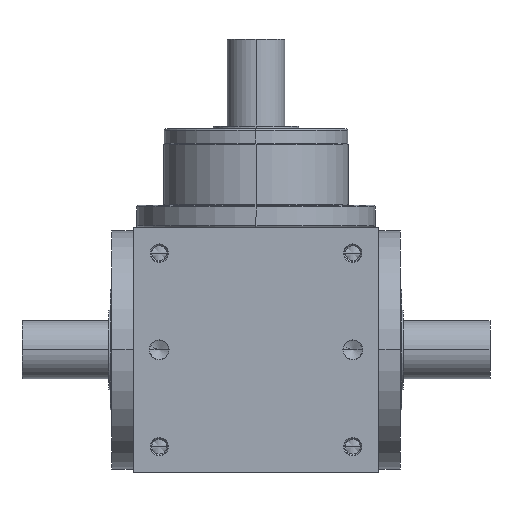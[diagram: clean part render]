
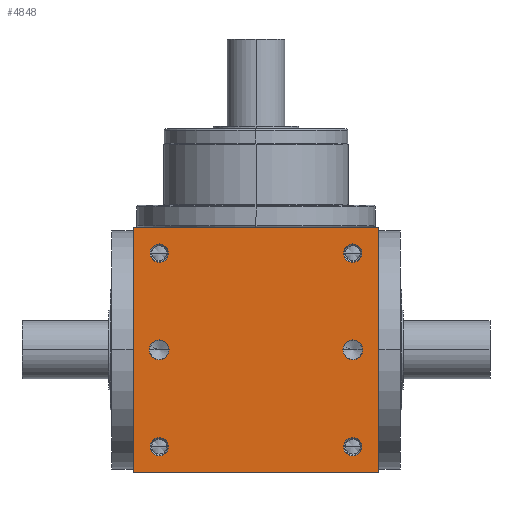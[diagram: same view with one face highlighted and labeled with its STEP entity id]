
A CAD part, front view. The second image highlights one B-rep face of the part: STEP entity #4848.
In plain terms, the highlighted planar face has unit normal (0, -1, 0).
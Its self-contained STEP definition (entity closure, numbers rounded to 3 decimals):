
#5=DIRECTION('',(1.,0.,0.));
#6=VECTOR('',#5,170.);
#7=CARTESIAN_POINT('',(-85.,-85.,-85.));
#8=LINE('',#7,#6);
#155=DIRECTION('',(0.,0.,1.));
#156=VECTOR('',#155,170.);
#157=CARTESIAN_POINT('',(85.,-85.,-85.));
#158=LINE('',#157,#156);
#209=DIRECTION('',(0.,0.,1.));
#210=VECTOR('',#209,170.);
#211=CARTESIAN_POINT('',(-85.,-85.,-85.));
#212=LINE('',#211,#210);
#213=CARTESIAN_POINT('',(67.,-85.,67.));
#214=DIRECTION('',(0.,1.,0.));
#215=DIRECTION('',(-1.,0.,0.));
#216=AXIS2_PLACEMENT_3D('',#213,#214,#215);
#218=CARTESIAN_POINT('',(67.,-85.,67.));
#219=DIRECTION('',(0.,1.,0.));
#220=DIRECTION('',(1.,0.,0.));
#221=AXIS2_PLACEMENT_3D('',#218,#219,#220);
#223=CARTESIAN_POINT('',(-67.,-85.,67.));
#224=DIRECTION('',(0.,1.,0.));
#225=DIRECTION('',(-1.,0.,0.));
#226=AXIS2_PLACEMENT_3D('',#223,#224,#225);
#228=CARTESIAN_POINT('',(-67.,-85.,67.));
#229=DIRECTION('',(0.,1.,0.));
#230=DIRECTION('',(1.,0.,0.));
#231=AXIS2_PLACEMENT_3D('',#228,#229,#230);
#233=CARTESIAN_POINT('',(67.,-85.,-67.));
#234=DIRECTION('',(0.,1.,0.));
#235=DIRECTION('',(-1.,0.,0.));
#236=AXIS2_PLACEMENT_3D('',#233,#234,#235);
#238=CARTESIAN_POINT('',(67.,-85.,-67.));
#239=DIRECTION('',(0.,1.,0.));
#240=DIRECTION('',(1.,0.,0.));
#241=AXIS2_PLACEMENT_3D('',#238,#239,#240);
#243=CARTESIAN_POINT('',(-67.,-85.,-67.));
#244=DIRECTION('',(0.,1.,0.));
#245=DIRECTION('',(-1.,0.,0.));
#246=AXIS2_PLACEMENT_3D('',#243,#244,#245);
#248=CARTESIAN_POINT('',(-67.,-85.,-67.));
#249=DIRECTION('',(0.,1.,0.));
#250=DIRECTION('',(1.,0.,0.));
#251=AXIS2_PLACEMENT_3D('',#248,#249,#250);
#253=CARTESIAN_POINT('',(-67.,-85.,0.));
#254=DIRECTION('',(0.,1.,0.));
#255=DIRECTION('',(1.,0.,0.));
#256=AXIS2_PLACEMENT_3D('',#253,#254,#255);
#258=CARTESIAN_POINT('',(-67.,-85.,0.));
#259=DIRECTION('',(0.,1.,0.));
#260=DIRECTION('',(-1.,0.,0.));
#261=AXIS2_PLACEMENT_3D('',#258,#259,#260);
#263=CARTESIAN_POINT('',(67.,-85.,0.));
#264=DIRECTION('',(0.,1.,0.));
#265=DIRECTION('',(1.,0.,0.));
#266=AXIS2_PLACEMENT_3D('',#263,#264,#265);
#268=CARTESIAN_POINT('',(67.,-85.,0.));
#269=DIRECTION('',(0.,1.,0.));
#270=DIRECTION('',(-1.,0.,0.));
#271=AXIS2_PLACEMENT_3D('',#268,#269,#270);
#285=DIRECTION('',(1.,0.,0.));
#286=VECTOR('',#285,170.);
#287=CARTESIAN_POINT('',(-85.,-85.,85.));
#288=LINE('',#287,#286);
#3884=CARTESIAN_POINT('',(-85.,-85.,-85.));
#3886=VERTEX_POINT('',#3884);
#3887=CARTESIAN_POINT('',(85.,-85.,-85.));
#3888=VERTEX_POINT('',#3887);
#3892=CARTESIAN_POINT('',(-85.,-85.,85.));
#3894=VERTEX_POINT('',#3892);
#3895=CARTESIAN_POINT('',(85.,-85.,85.));
#3896=VERTEX_POINT('',#3895);
#4075=CARTESIAN_POINT('',(60.65,-85.,67.));
#4076=CARTESIAN_POINT('',(73.35,-85.,67.));
#4077=VERTEX_POINT('',#4075);
#4078=VERTEX_POINT('',#4076);
#4083=CARTESIAN_POINT('',(-73.35,-85.,67.));
#4084=CARTESIAN_POINT('',(-60.65,-85.,67.));
#4085=VERTEX_POINT('',#4083);
#4086=VERTEX_POINT('',#4084);
#4091=CARTESIAN_POINT('',(60.65,-85.,-67.));
#4092=CARTESIAN_POINT('',(73.35,-85.,-67.));
#4093=VERTEX_POINT('',#4091);
#4094=VERTEX_POINT('',#4092);
#4099=CARTESIAN_POINT('',(-73.35,-85.,-67.));
#4100=CARTESIAN_POINT('',(-60.65,-85.,-67.));
#4101=VERTEX_POINT('',#4099);
#4102=VERTEX_POINT('',#4100);
#4459=CARTESIAN_POINT('',(-60.15,-85.,0.));
#4460=CARTESIAN_POINT('',(-73.85,-85.,
0.));
#4461=VERTEX_POINT('',#4459);
#4462=VERTEX_POINT('',#4460);
#4467=CARTESIAN_POINT('',(73.85,-85.,0.));
#4468=CARTESIAN_POINT('',(60.15,-85.,0.));
#4469=VERTEX_POINT('',#4467);
#4470=VERTEX_POINT('',#4468);
#4800=CARTESIAN_POINT('',(-85.,-85.,-85.));
#4801=DIRECTION('',(0.,-1.,0.));
#4802=DIRECTION('',(1.,0.,0.));
#4803=AXIS2_PLACEMENT_3D('',#4800,#4801,#4802);
#4804=PLANE('',#4803);
#4805=ORIENTED_EDGE('',*,*,#4640,.F.);
#4806=ORIENTED_EDGE('',*,*,#4683,.T.);
#4808=ORIENTED_EDGE('',*,*,#4807,.T.);
#4809=ORIENTED_EDGE('',*,*,#4762,.F.);
#4810=EDGE_LOOP('',(#4805,#4806,#4808,#4809));
#4811=FACE_OUTER_BOUND('',#4810,.F.);
#4813=ORIENTED_EDGE('',*,*,#4812,.F.);
#4815=ORIENTED_EDGE('',*,*,#4814,.F.);
#4816=EDGE_LOOP('',(#4813,#4815));
#4817=FACE_BOUND('',#4816,.F.);
#4819=ORIENTED_EDGE('',*,*,#4818,.F.);
#4821=ORIENTED_EDGE('',*,*,#4820,.F.);
#4822=EDGE_LOOP('',(#4819,#4821));
#4823=FACE_BOUND('',#4822,.F.);
#4825=ORIENTED_EDGE('',*,*,#4824,.F.);
#4827=ORIENTED_EDGE('',*,*,#4826,.F.);
#4828=EDGE_LOOP('',(#4825,#4827));
#4829=FACE_BOUND('',#4828,.F.);
#4831=ORIENTED_EDGE('',*,*,#4830,.F.);
#4833=ORIENTED_EDGE('',*,*,#4832,.F.);
#4834=EDGE_LOOP('',(#4831,#4833));
#4835=FACE_BOUND('',#4834,.F.);
#4837=ORIENTED_EDGE('',*,*,#4836,.F.);
#4839=ORIENTED_EDGE('',*,*,#4838,.F.);
#4840=EDGE_LOOP('',(#4837,#4839));
#4841=FACE_BOUND('',#4840,.F.);
#4843=ORIENTED_EDGE('',*,*,#4842,.F.);
#4845=ORIENTED_EDGE('',*,*,#4844,.F.);
#4846=EDGE_LOOP('',(#4843,#4845));
#4847=FACE_BOUND('',#4846,.F.);
#4848=ADVANCED_FACE('',(#4811,#4817,#4823,#4829,#4835,#4841,#4847),#4804,.T.);
#217=CIRCLE('',#216,6.35);
#222=CIRCLE('',#221,6.35);
#227=CIRCLE('',#226,6.35);
#232=CIRCLE('',#231,6.35);
#237=CIRCLE('',#236,6.35);
#242=CIRCLE('',#241,6.35);
#247=CIRCLE('',#246,6.35);
#252=CIRCLE('',#251,6.35);
#257=CIRCLE('',#256,6.85);
#262=CIRCLE('',#261,6.85);
#267=CIRCLE('',#266,6.85);
#272=CIRCLE('',#271,6.85);
#4640=EDGE_CURVE('',#3886,#3888,#8,.T.);
#4683=EDGE_CURVE('',#3886,#3894,#212,.T.);
#4762=EDGE_CURVE('',#3888,#3896,#158,.T.);
#4807=EDGE_CURVE('',#3894,#3896,#288,.T.);
#4812=EDGE_CURVE('',#4077,#4078,#217,.T.);
#4814=EDGE_CURVE('',#4078,#4077,#222,.T.);
#4818=EDGE_CURVE('',#4085,#4086,#227,.T.);
#4820=EDGE_CURVE('',#4086,#4085,#232,.T.);
#4824=EDGE_CURVE('',#4093,#4094,#237,.T.);
#4826=EDGE_CURVE('',#4094,#4093,#242,.T.);
#4830=EDGE_CURVE('',#4101,#4102,#247,.T.);
#4832=EDGE_CURVE('',#4102,#4101,#252,.T.);
#4836=EDGE_CURVE('',#4461,#4462,#257,.T.);
#4838=EDGE_CURVE('',#4462,#4461,#262,.T.);
#4842=EDGE_CURVE('',#4469,#4470,#267,.T.);
#4844=EDGE_CURVE('',#4470,#4469,#272,.T.);
